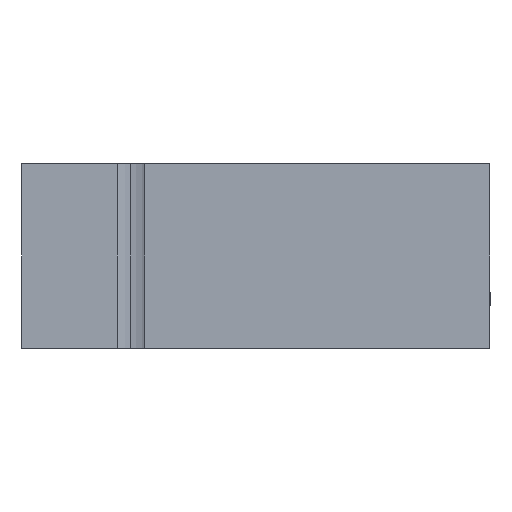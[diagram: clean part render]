
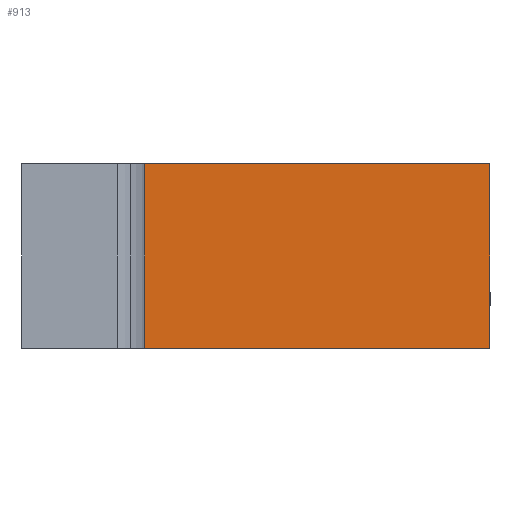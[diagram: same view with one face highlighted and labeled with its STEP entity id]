
A CAD part, left-side view. The second image highlights one B-rep face of the part: STEP entity #913.
In plain terms, the highlighted planar face has unit normal (-1, 0, 0).
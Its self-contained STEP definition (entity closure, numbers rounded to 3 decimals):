
#187 = EDGE_CURVE ( 'NONE', #4230, #1162, #977, .T. ) ;
#655 = CARTESIAN_POINT ( 'NONE',  ( 6.307, 41.614, 17.588 ) ) ;
#751 = ORIENTED_EDGE ( 'NONE', *, *, #4707, .T. ) ;
#773 = ORIENTED_EDGE ( 'NONE', *, *, #187, .T. ) ;
#913 = ADVANCED_FACE ( 'NONE', ( #5210 ), #2829, .T. ) ;
#928 = CARTESIAN_POINT ( 'NONE',  ( 6.307, -14.586, 17.588 ) ) ;
#977 = LINE ( 'NONE', #1874, #3065 ) ;
#1162 = VERTEX_POINT ( 'NONE', #4541 ) ;
#1275 = VECTOR ( 'NONE', #1999, 1000. ) ;
#1422 = EDGE_LOOP ( 'NONE', ( #751, #3971, #773, #2283 ) ) ;
#1471 = CARTESIAN_POINT ( 'NONE',  ( 6.307, -14.586, 17.588 ) ) ;
#1494 = DIRECTION ( 'NONE',  ( 0., 0., -1. ) ) ;
#1621 = DIRECTION ( 'NONE',  ( 0., 1., 0. ) ) ;
#1874 = CARTESIAN_POINT ( 'NONE',  ( 6.307, -14.586, 47.588 ) ) ;
#1989 = VERTEX_POINT ( 'NONE', #2256 ) ;
#1999 = DIRECTION ( 'NONE',  ( 0., 0., -1. ) ) ;
#2005 = CARTESIAN_POINT ( 'NONE',  ( 6.307, 41.614, 17.588 ) ) ;
#2094 = EDGE_CURVE ( 'NONE', #1162, #5108, #2453, .T. ) ;
#2256 = CARTESIAN_POINT ( 'NONE',  ( 6.307, -14.586, 17.588 ) ) ;
#2259 = EDGE_CURVE ( 'NONE', #4230, #1989, #3786, .T. ) ;
#2283 = ORIENTED_EDGE ( 'NONE', *, *, #2094, .T. ) ;
#2453 = LINE ( 'NONE', #2005, #1275 ) ;
#2515 = CARTESIAN_POINT ( 'NONE',  ( 6.307, 23.514, 17.588 ) ) ;
#2693 = AXIS2_PLACEMENT_3D ( 'NONE', #928, #3325, #3312 ) ;
#2702 = VECTOR ( 'NONE', #5097, 1000. ) ;
#2776 = LINE ( 'NONE', #2515, #2702 ) ;
#2807 = VECTOR ( 'NONE', #1494, 1000. ) ;
#2817 = CARTESIAN_POINT ( 'NONE',  ( 6.307, -14.586, 47.588 ) ) ;
#2829 = PLANE ( 'NONE',  #2693 ) ;
#3065 = VECTOR ( 'NONE', #1621, 1000. ) ;
#3312 = DIRECTION ( 'NONE',  ( 0., 0., 1. ) ) ;
#3325 = DIRECTION ( 'NONE',  ( -1., 0., 0. ) ) ;
#3786 = LINE ( 'NONE', #1471, #2807 ) ;
#3971 = ORIENTED_EDGE ( 'NONE', *, *, #2259, .F. ) ;
#4230 = VERTEX_POINT ( 'NONE', #2817 ) ;
#4541 = CARTESIAN_POINT ( 'NONE',  ( 6.307, 41.614, 47.588 ) ) ;
#4707 = EDGE_CURVE ( 'NONE', #5108, #1989, #2776, .T. ) ;
#5097 = DIRECTION ( 'NONE',  ( 0., -1., 0. ) ) ;
#5108 = VERTEX_POINT ( 'NONE', #655 ) ;
#5210 = FACE_OUTER_BOUND ( 'NONE', #1422, .T. ) ;
